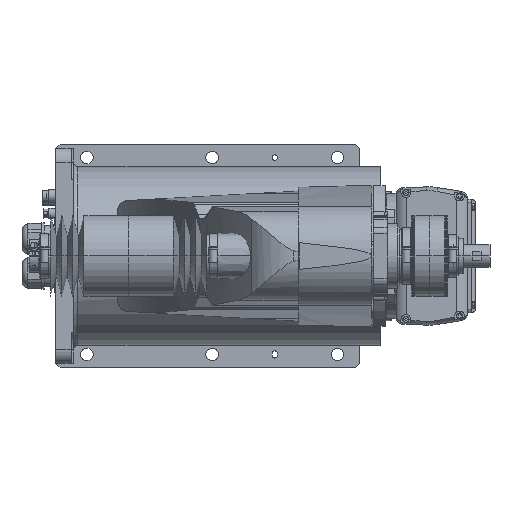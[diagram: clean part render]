
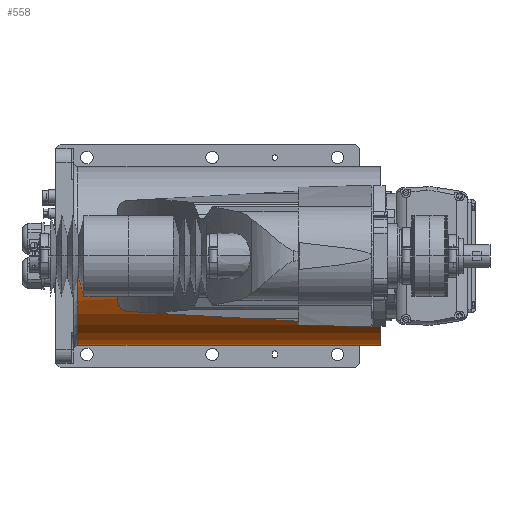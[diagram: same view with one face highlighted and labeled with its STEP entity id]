
A CAD part, left-side view. The second image highlights one B-rep face of the part: STEP entity #558.
In plain terms, the highlighted cylindrical face has radius 100 mm (diameter 200 mm), a partial arc.
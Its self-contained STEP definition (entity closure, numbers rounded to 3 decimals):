
#558 = ADVANCED_FACE( '', ( #2789 ), #2790, .T. );
#2789 = FACE_OUTER_BOUND( '', #7306, .T. );
#2790 = CYLINDRICAL_SURFACE( '', #7307, 100. );
#7306 = EDGE_LOOP( '', ( #12567, #12568, #12569, #12570, #12571, #12572, #12573, #12574, #12575, #12576, #12577, #12578, #12579, #12580, #12581, #12582 ) );
#7307 = AXIS2_PLACEMENT_3D( '', #12583, #12584, #12585 );
#12567 = ORIENTED_EDGE( '', *, *, #28430, .F. );
#12568 = ORIENTED_EDGE( '', *, *, #28431, .T. );
#12569 = ORIENTED_EDGE( '', *, *, #28432, .F. );
#12570 = ORIENTED_EDGE( '', *, *, #28433, .T. );
#12571 = ORIENTED_EDGE( '', *, *, #28434, .T. );
#12572 = ORIENTED_EDGE( '', *, *, #28435, .T. );
#12573 = ORIENTED_EDGE( '', *, *, #28436, .F. );
#12574 = ORIENTED_EDGE( '', *, *, #27865, .F. );
#12575 = ORIENTED_EDGE( '', *, *, #28437, .F. );
#12576 = ORIENTED_EDGE( '', *, *, #28438, .T. );
#12577 = ORIENTED_EDGE( '', *, *, #28439, .T. );
#12578 = ORIENTED_EDGE( '', *, *, #28440, .T. );
#12579 = ORIENTED_EDGE( '', *, *, #28441, .T. );
#12580 = ORIENTED_EDGE( '', *, *, #28442, .T. );
#12581 = ORIENTED_EDGE( '', *, *, #28443, .T. );
#12582 = ORIENTED_EDGE( '', *, *, #28444, .T. );
#12583 = CARTESIAN_POINT( '', ( 0., 194., 0. ) );
#12584 = DIRECTION( '', ( 0., -1., 0. ) );
#12585 = DIRECTION( '', ( 1., 0., 0. ) );
#27865 = EDGE_CURVE( '', #32909, #32912, #32913, .T. );
#28430 = EDGE_CURVE( '', #34014, #34015, #34016, .T. );
#28431 = EDGE_CURVE( '', #34014, #34017, #34018, .T. );
#28432 = EDGE_CURVE( '', #34019, #34017, #34020, .T. );
#28433 = EDGE_CURVE( '', #34019, #34021, #34022, .T. );
#28434 = EDGE_CURVE( '', #34021, #34023, #34024, .T. );
#28435 = EDGE_CURVE( '', #34023, #34025, #34026, .T. );
#28436 = EDGE_CURVE( '', #32912, #34025, #34027, .T. );
#28437 = EDGE_CURVE( '', #34028, #32909, #34029, .T. );
#28438 = EDGE_CURVE( '', #34028, #34030, #34031, .T. );
#28439 = EDGE_CURVE( '', #34030, #34032, #34033, .T. );
#28440 = EDGE_CURVE( '', #34032, #34034, #34035, .T. );
#28441 = EDGE_CURVE( '', #34034, #34036, #34037, .T. );
#28442 = EDGE_CURVE( '', #34036, #34038, #34039, .T. );
#28443 = EDGE_CURVE( '', #34038, #34040, #34041, .T. );
#28444 = EDGE_CURVE( '', #34040, #34015, #34042, .T. );
#32909 = VERTEX_POINT( '', #41250 );
#32912 = VERTEX_POINT( '', #41253 );
#32913 = CIRCLE( '', #41254, 100. );
#34014 = VERTEX_POINT( '', #42641 );
#34015 = VERTEX_POINT( '', #42642 );
#34016 = LINE( '', #42643, #42644 );
#34017 = VERTEX_POINT( '', #42645 );
#34018 = CIRCLE( '', #42646, 100. );
#34019 = VERTEX_POINT( '', #42647 );
#34020 = LINE( '', #42648, #42649 );
#34021 = VERTEX_POINT( '', #42650 );
#34022 = CIRCLE( '', #42651, 100. );
#34023 = VERTEX_POINT( '', #42652 );
#34024 = LINE( '', #42653, #42654 );
#34025 = VERTEX_POINT( '', #42655 );
#34026 = CIRCLE( '', #42656, 100. );
#34027 = LINE( '', #42657, #42658 );
#34028 = VERTEX_POINT( '', #42659 );
#34029 = CIRCLE( '', #42660, 100. );
#34030 = VERTEX_POINT( '', #42661 );
#34031 = LINE( '', #42662, #42663 );
#34032 = VERTEX_POINT( '', #42664 );
#34033 = B_SPLINE_CURVE_WITH_KNOTS( '', 3, ( #42665, #42666, #42667, #42668, #42669, #42670, #42671, #42672, #42673, #42674, #42675, #42676, #42677, #42678, #42679, #42680, #42681, #42682 ), .UNSPECIFIED., .F., .F., ( 4, 2, 2, 2, 2, 2, 2, 2, 4 ), ( 0., 0.75, 1.5, 2.25, 3., 4.12, 5.24, 6.36, 7.48 ), .UNSPECIFIED. );
#34034 = VERTEX_POINT( '', #42683 );
#34035 = CIRCLE( '', #42684, 100. );
#34036 = VERTEX_POINT( '', #42685 );
#34037 = LINE( '', #42686, #42687 );
#34038 = VERTEX_POINT( '', #42688 );
#34039 = CIRCLE( '', #42689, 100. );
#34040 = VERTEX_POINT( '', #42690 );
#34041 = LINE( '', #42691, #42692 );
#34042 = CIRCLE( '', #42693, 100. );
#41250 = CARTESIAN_POINT( '', ( 0., 363., -100. ) );
#41253 = CARTESIAN_POINT( '', ( -100., 363., 0. ) );
#41254 = AXIS2_PLACEMENT_3D( '', #55168, #55169, #55170 );
#42641 = CARTESIAN_POINT( '', ( 100., 25., 0. ) );
#42642 = CARTESIAN_POINT( '', ( 100., 64., 0. ) );
#42643 = CARTESIAN_POINT( '', ( 100., 194., 0. ) );
#42644 = VECTOR( '', #56291, 1. );
#42645 = CARTESIAN_POINT( '', ( -100., 25., 0. ) );
#42646 = AXIS2_PLACEMENT_3D( '', #56292, #56293, #56294 );
#42647 = CARTESIAN_POINT( '', ( -100., 218.3, 0. ) );
#42648 = CARTESIAN_POINT( '', ( -100., 194., 0. ) );
#42649 = VECTOR( '', #56295, 1. );
#42650 = CARTESIAN_POINT( '', ( -88., 218.3, -47.497 ) );
#42651 = AXIS2_PLACEMENT_3D( '', #56296, #56297, #56298 );
#42652 = CARTESIAN_POINT( '', ( -88., 311.3, -47.497 ) );
#42653 = CARTESIAN_POINT( '', ( -88., 264.8, -47.497 ) );
#42654 = VECTOR( '', #56299, 1. );
#42655 = CARTESIAN_POINT( '', ( -100., 311.3, 0. ) );
#42656 = AXIS2_PLACEMENT_3D( '', #56300, #56301, #56302 );
#42657 = CARTESIAN_POINT( '', ( -100., 194., 0. ) );
#42658 = VECTOR( '', #56303, 1. );
#42659 = CARTESIAN_POINT( '', ( 66.144, 363., -75. ) );
#42660 = AXIS2_PLACEMENT_3D( '', #56304, #56305, #56306 );
#42661 = CARTESIAN_POINT( '', ( 66.144, 68., -75. ) );
#42662 = CARTESIAN_POINT( '', ( 66.144, 215.5, -75. ) );
#42663 = VECTOR( '', #56307, 1. );
#42664 = CARTESIAN_POINT( '', ( 70.42, 64., -71. ) );
#42665 = CARTESIAN_POINT( '', ( 66.144, 68., -75. ) );
#42666 = CARTESIAN_POINT( '', ( 66.144, 67.75, -75. ) );
#42667 = CARTESIAN_POINT( '', ( 66.171, 67.497, -74.976 ) );
#42668 = CARTESIAN_POINT( '', ( 66.277, 67.005, -74.882 ) );
#42669 = CARTESIAN_POINT( '', ( 66.356, 66.766, -74.812 ) );
#42670 = CARTESIAN_POINT( '', ( 66.555, 66.315, -74.636 ) );
#42671 = CARTESIAN_POINT( '', ( 66.674, 66.103, -74.529 ) );
#42672 = CARTESIAN_POINT( '', ( 66.938, 65.716, -74.292 ) );
#42673 = CARTESIAN_POINT( '', ( 67.082, 65.542, -74.162 ) );
#42674 = CARTESIAN_POINT( '', ( 67.446, 65.158, -73.831 ) );
#42675 = CARTESIAN_POINT( '', ( 67.688, 64.954, -73.61 ) );
#42676 = CARTESIAN_POINT( '', ( 68.203, 64.604, -73.134 ) );
#42677 = CARTESIAN_POINT( '', ( 68.475, 64.457, -72.879 ) );
#42678 = CARTESIAN_POINT( '', ( 69.031, 64.224, -72.352 ) );
#42679 = CARTESIAN_POINT( '', ( 69.316, 64.139, -72.08 ) );
#42680 = CARTESIAN_POINT( '', ( 69.877, 64.026, -71.535 ) );
#42681 = CARTESIAN_POINT( '', ( 70.155, 64., -71.263 ) );
#42682 = CARTESIAN_POINT( '', ( 70.42, 64., -71. ) );
#42683 = CARTESIAN_POINT( '', ( 75.993, 64., -65. ) );
#42684 = AXIS2_PLACEMENT_3D( '', #56308, #56309, #56310 );
#42685 = CARTESIAN_POINT( '', ( 75.993, 62., -65. ) );
#42686 = CARTESIAN_POINT( '', ( 75.993, 63., -65. ) );
#42687 = VECTOR( '', #56311, 1. );
#42688 = CARTESIAN_POINT( '', ( 89.303, 62., -45. ) );
#42689 = AXIS2_PLACEMENT_3D( '', #56312, #56313, #56314 );
#42690 = CARTESIAN_POINT( '', ( 89.303, 64., -45. ) );
#42691 = CARTESIAN_POINT( '', ( 89.303, 63., -45. ) );
#42692 = VECTOR( '', #56315, 1. );
#42693 = AXIS2_PLACEMENT_3D( '', #56316, #56317, #56318 );
#55168 = CARTESIAN_POINT( '', ( 0., 363., 0. ) );
#55169 = DIRECTION( '', ( 0., 1., 0. ) );
#55170 = DIRECTION( '', ( 1., 0., 0. ) );
#56291 = DIRECTION( '', ( 0., 1., 0. ) );
#56292 = CARTESIAN_POINT( '', ( 0., 25., 0. ) );
#56293 = DIRECTION( '', ( 0., 1., 0. ) );
#56294 = DIRECTION( '', ( 1., 0., 0. ) );
#56295 = DIRECTION( '', ( 0., -1., 0. ) );
#56296 = CARTESIAN_POINT( '', ( 0., 218.3, 0. ) );
#56297 = DIRECTION( '', ( 0., -1., 0. ) );
#56298 = DIRECTION( '', ( 1., 0., 0. ) );
#56299 = DIRECTION( '', ( 0., 1., 0. ) );
#56300 = CARTESIAN_POINT( '', ( 0., 311.3, 0. ) );
#56301 = DIRECTION( '', ( 0., 1., 0. ) );
#56302 = DIRECTION( '', ( 1., 0., 0. ) );
#56303 = DIRECTION( '', ( 0., -1., 0. ) );
#56304 = CARTESIAN_POINT( '', ( 0., 363., 0. ) );
#56305 = DIRECTION( '', ( 0., 1., 0. ) );
#56306 = DIRECTION( '', ( 1., 0., 0. ) );
#56307 = DIRECTION( '', ( 0., -1., 0. ) );
#56308 = CARTESIAN_POINT( '', ( 0., 64., 0. ) );
#56309 = DIRECTION( '', ( 0., -1., 0. ) );
#56310 = DIRECTION( '', ( 1., 0., 0. ) );
#56311 = DIRECTION( '', ( 0., -1., 0. ) );
#56312 = CARTESIAN_POINT( '', ( 0., 62., 0. ) );
#56313 = DIRECTION( '', ( 0., -1., 0. ) );
#56314 = DIRECTION( '', ( 1., 0., 0. ) );
#56315 = DIRECTION( '', ( 0., 1., 0. ) );
#56316 = CARTESIAN_POINT( '', ( 0., 64., 0. ) );
#56317 = DIRECTION( '', ( 0., -1., 0. ) );
#56318 = DIRECTION( '', ( 1., 0., 0. ) );
